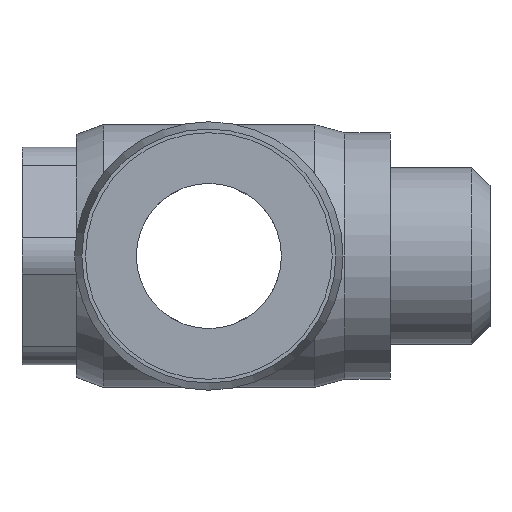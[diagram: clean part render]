
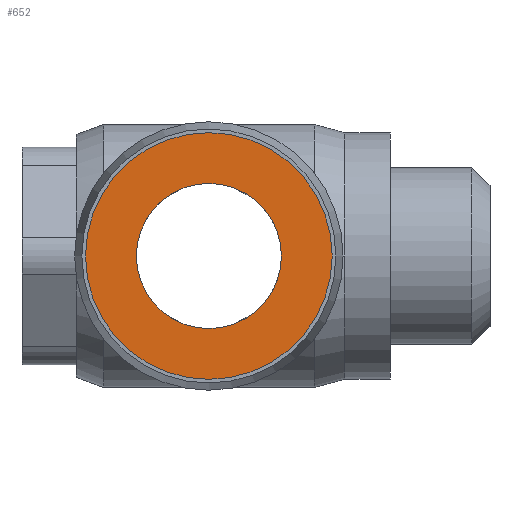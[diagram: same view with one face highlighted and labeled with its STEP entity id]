
A CAD part, left-side view. The second image highlights one B-rep face of the part: STEP entity #652.
In plain terms, the highlighted planar face has unit normal (-1, 0, 0).
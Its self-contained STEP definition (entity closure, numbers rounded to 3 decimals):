
#120=PLANE($,#736);
#154=FACE_BOUND($,#270,.T.);
#155=FACE_BOUND($,#271,.T.);
#270=EDGE_LOOP($,(#585));
#271=EDGE_LOOP($,(#586));
#297=CIRCLE($,#677,4.);
#325=CIRCLE($,#735,6.8);
#342=VERTEX_POINT($,#1065);
#384=VERTEX_POINT($,#1273);
#401=EDGE_CURVE($,#342,#342,#297,.T.);
#455=EDGE_CURVE($,#384,#384,#325,.T.);
#585=ORIENTED_EDGE($,*,*,#401,.T.);
#586=ORIENTED_EDGE($,*,*,#455,.T.);
#652=ADVANCED_FACE($,(#154,#155),#120,.T.);
#677=AXIS2_PLACEMENT_3D($,#1066,#780,#781);
#735=AXIS2_PLACEMENT_3D($,#1274,#920,#921);
#736=AXIS2_PLACEMENT_3D($,#1275,#922,#923);
#780=DIRECTION('center_axis',(1.,0.,0.));
#781=DIRECTION('ref_axis',(0.,1.,0.));
#920=DIRECTION('center_axis',(-1.,0.,0.));
#921=DIRECTION('ref_axis',(0.,-1.,0.));
#922=DIRECTION('center_axis',(-1.,0.,0.));
#923=DIRECTION('ref_axis',(0.,0.,-1.));
#1065=CARTESIAN_POINT('',(-25.5,-4.,0.));
#1066=CARTESIAN_POINT('Origin',(-25.5,0.,0.));
#1273=CARTESIAN_POINT('',(-25.5,-6.8,0.));
#1274=CARTESIAN_POINT('Origin',(-25.5,0.,0.));
#1275=CARTESIAN_POINT('Origin',(-25.5,-3.4,0.));
